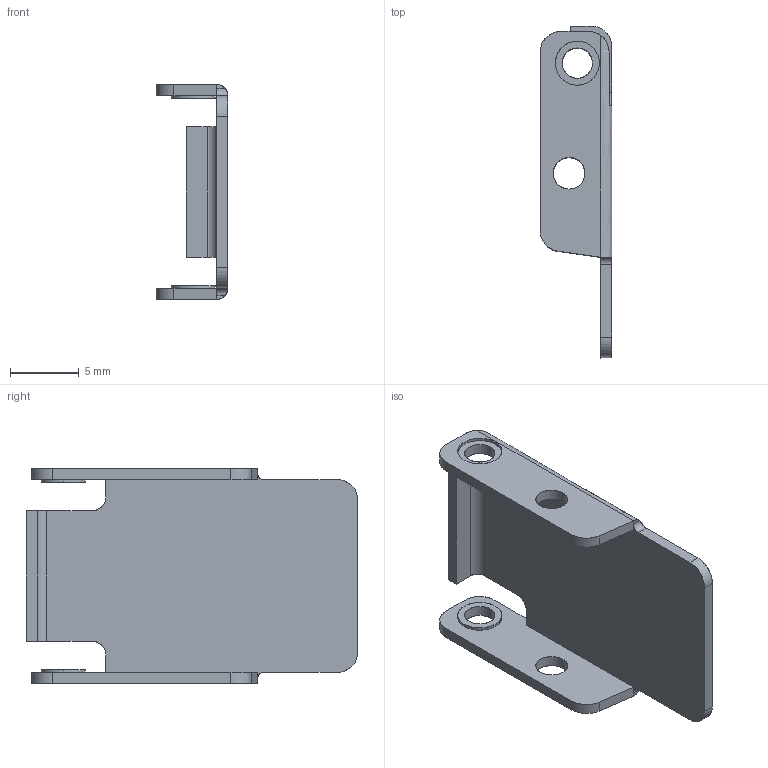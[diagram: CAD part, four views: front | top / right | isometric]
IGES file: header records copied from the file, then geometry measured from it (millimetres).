
Start section: SolidWorks IGES FILE using analytic representation for surfaces
Global section: file name: C:\Documents and Settings\lecoutey\Bureau\GO 17\17.010.10.IGS; native system: SolidWorks 2004 by SolidWorks Corporation; preprocessor: Version 5.3; author: lecoutey; date: 050329.093216; units: millimetre
Bounding box: 5.2 x 24.1 x 15.6 mm (x, y, z)
Surface area: 1061.6 mm2 (no closed solid volume)
Topology: 0 solids, 0 shells, 92 faces, 1088 edges, 1058 vertices
Faces by surface type: revolution 62, bspline 30
